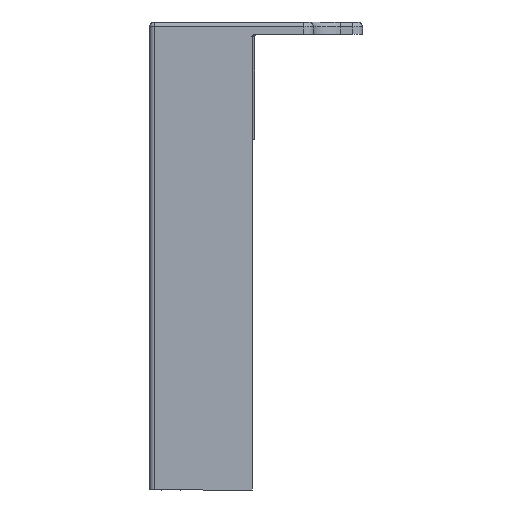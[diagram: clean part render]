
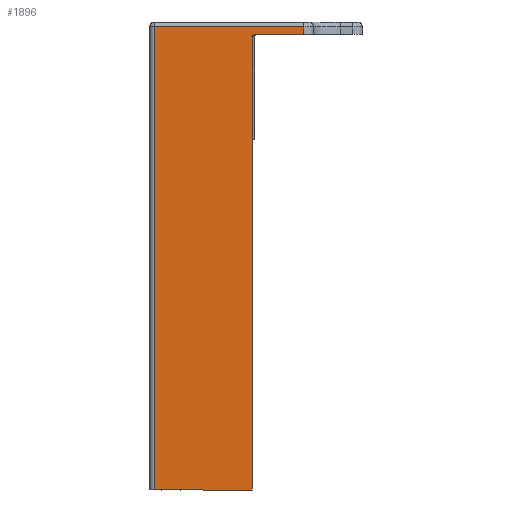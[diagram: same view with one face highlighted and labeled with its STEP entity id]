
A CAD part, front view. The second image highlights one B-rep face of the part: STEP entity #1896.
In plain terms, the highlighted planar face has unit normal (0, -1, 0).
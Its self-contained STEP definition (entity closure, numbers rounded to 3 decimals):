
#82=B_SPLINE_CURVE_WITH_KNOTS('',3,(#41399,#41400,#41401,#41402,#41403,
#41404,#41405,#41406,#41407,#41408,#41409,#41410,#41411,#41412,#41413,#41414),
 .UNSPECIFIED.,.F.,.F.,(4,3,3,3,3,4),(0.,0.213,0.425,
0.639,0.854,1.),.UNSPECIFIED.);
#673=FACE_OUTER_BOUND('',#4678,.T.);
#1896=ADVANCED_FACE('',(#673),#3109,.T.);
#3109=PLANE('',#27792);
#4678=EDGE_LOOP('',(#9473,#9474,#9475,#9476,#9477,#9478,#9479));
#9473=ORIENTED_EDGE('',*,*,#19543,.T.);
#9474=ORIENTED_EDGE('',*,*,#19544,.T.);
#9475=ORIENTED_EDGE('',*,*,#19189,.T.);
#9476=ORIENTED_EDGE('',*,*,#19545,.T.);
#9477=ORIENTED_EDGE('',*,*,#19546,.T.);
#9478=ORIENTED_EDGE('',*,*,#19547,.T.);
#9479=ORIENTED_EDGE('',*,*,#17275,.T.);
#14708=VERTEX_POINT('',#36752);
#14709=VERTEX_POINT('',#36754);
#16343=VERTEX_POINT('',#40696);
#16344=VERTEX_POINT('',#40697);
#16689=VERTEX_POINT('',#41398);
#16690=VERTEX_POINT('',#41416);
#16691=VERTEX_POINT('',#41418);
#17275=EDGE_CURVE('',#14709,#14708,#21063,.T.);
#19189=EDGE_CURVE('',#16343,#16344,#22486,.T.);
#19543=EDGE_CURVE('',#14708,#16689,#22661,.T.);
#19544=EDGE_CURVE('',#16689,#16343,#82,.T.);
#19545=EDGE_CURVE('',#16344,#16690,#22662,.T.);
#19546=EDGE_CURVE('',#16690,#16691,#22663,.T.);
#19547=EDGE_CURVE('',#16691,#14709,#22664,.T.);
#21063=LINE('',#36753,#24022);
#22486=LINE('',#40695,#25445);
#22661=LINE('',#41397,#25620);
#22662=LINE('',#41415,#25621);
#22663=LINE('',#41417,#25622);
#22664=LINE('',#41419,#25623);
#24022=VECTOR('',#29352,1.);
#25445=VECTOR('',#32137,1.);
#25620=VECTOR('',#32674,1.);
#25621=VECTOR('',#32675,1.);
#25622=VECTOR('',#32676,1.);
#25623=VECTOR('',#32677,1.);
#27792=AXIS2_PLACEMENT_3D('',#41420,#32678,#32679);
#29352=DIRECTION('',(1.,0.,0.));
#32137=DIRECTION('',(1.,0.,0.));
#32674=DIRECTION('',(0.,0.,1.));
#32675=DIRECTION('',(0.,0.,1.));
#32676=DIRECTION('',(-1.,0.,0.));
#32677=DIRECTION('',(0.,0.,-1.));
#32678=DIRECTION('',(0.,-1.,0.));
#32679=DIRECTION('',(0.,0.,-1.));
#36752=CARTESIAN_POINT('',(21.,0.,0.));
#36753=CARTESIAN_POINT('',(21.75,0.,0.));
#36754=CARTESIAN_POINT('',(1.,0.,0.));
#40695=CARTESIAN_POINT('',(21.75,0.,93.));
#40696=CARTESIAN_POINT('',(21.504,0.,93.));
#40697=CARTESIAN_POINT('',(31.5,0.,93.));
#41397=CARTESIAN_POINT('',(21.,0.,0.));
#41398=CARTESIAN_POINT('',(21.,0.,92.5));
#41399=CARTESIAN_POINT('',(21.,0.,92.5));
#41400=CARTESIAN_POINT('',(21.,0.,92.556));
#41401=CARTESIAN_POINT('',(21.01,0.,92.612));
#41402=CARTESIAN_POINT('',(21.028,0.,92.664));
#41403=CARTESIAN_POINT('',(21.046,0.,92.717));
#41404=CARTESIAN_POINT('',(21.074,0.,92.767));
#41405=CARTESIAN_POINT('',(21.109,0.,92.81));
#41406=CARTESIAN_POINT('',(21.144,0.,92.854));
#41407=CARTESIAN_POINT('',(21.186,0.,92.892));
#41408=CARTESIAN_POINT('',(21.234,0.,92.922));
#41409=CARTESIAN_POINT('',(21.281,0.,92.952));
#41410=CARTESIAN_POINT('',(21.335,0.,92.974));
#41411=CARTESIAN_POINT('',(21.39,0.,92.987));
#41412=CARTESIAN_POINT('',(21.427,0.,92.996));
#41413=CARTESIAN_POINT('',(21.466,0.,93.));
#41414=CARTESIAN_POINT('',(21.504,0.,93.));
#41415=CARTESIAN_POINT('',(31.5,0.,0.));
#41416=CARTESIAN_POINT('',(31.5,0.,94.5));
#41417=CARTESIAN_POINT('',(21.75,0.,94.5));
#41418=CARTESIAN_POINT('',(1.,0.,94.5));
#41419=CARTESIAN_POINT('',(1.,0.,0.));
#41420=CARTESIAN_POINT('',(21.75,0.,0.));
